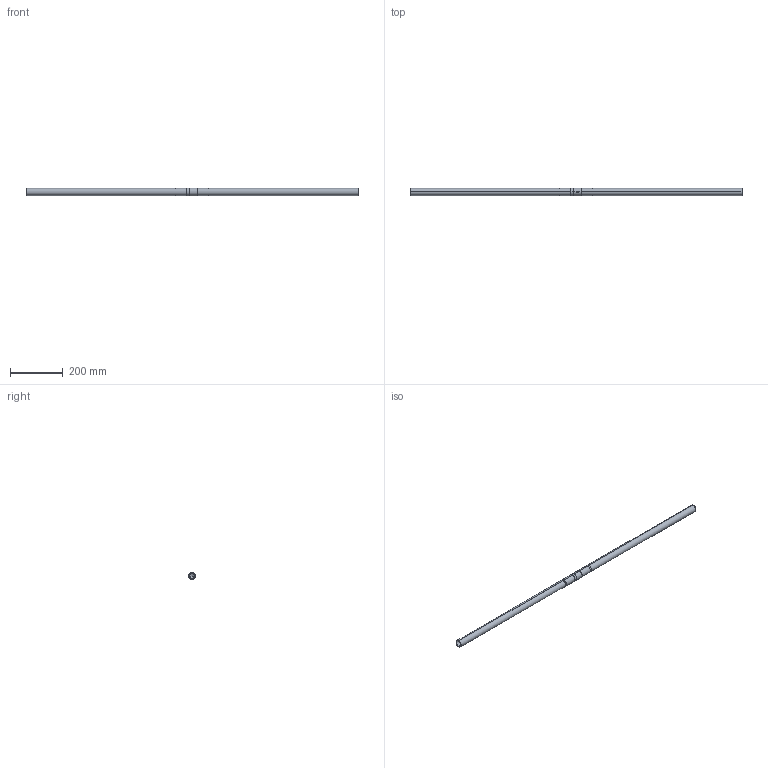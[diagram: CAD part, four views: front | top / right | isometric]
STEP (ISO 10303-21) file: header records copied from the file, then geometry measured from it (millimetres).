
FILE_DESCRIPTION (( 'STEP AP214' ), '1' );
FILE_NAME ('Pinned Joint Connection.STEP', '2013-08-19T17:14:29', ( 'ydmin' ), ( 'Microsoft' ), 'SwSTEP 2.0', 'SolidWorks 2013', '' );
FILE_SCHEMA (( 'AUTOMOTIVE_DESIGN' ));
Length unit declared in the file: inch
Products named in the file (3): 6.000 Inch Tube; Pinned Joint Connection; DRP-002-0541-00
Assembly tree (3 placements, depth 2):
  Pinned Joint Connection
    6.000 Inch Tube  x2
    DRP-002-0541-00
Bounding box: 1257.3 x 28.57 x 28.57 mm (x, y, z)
Volume: 145801.4 mm3; surface area: 225448.2 mm2
Topology: 4 solids, 4 shells, 55 faces, 122 edges, 73 vertices
Faces by surface type: cylinder 30, plane 11, cone 8, torus 6
Entity records: 2434 total; most frequent: CARTESIAN_POINT 612, DIRECTION 264, ORIENTED_EDGE 216, AXIS2_PLACEMENT_3D 113, EDGE_CURVE 108, VERTEX_POINT 65, EDGE_LOOP 59, CIRCLE 58
